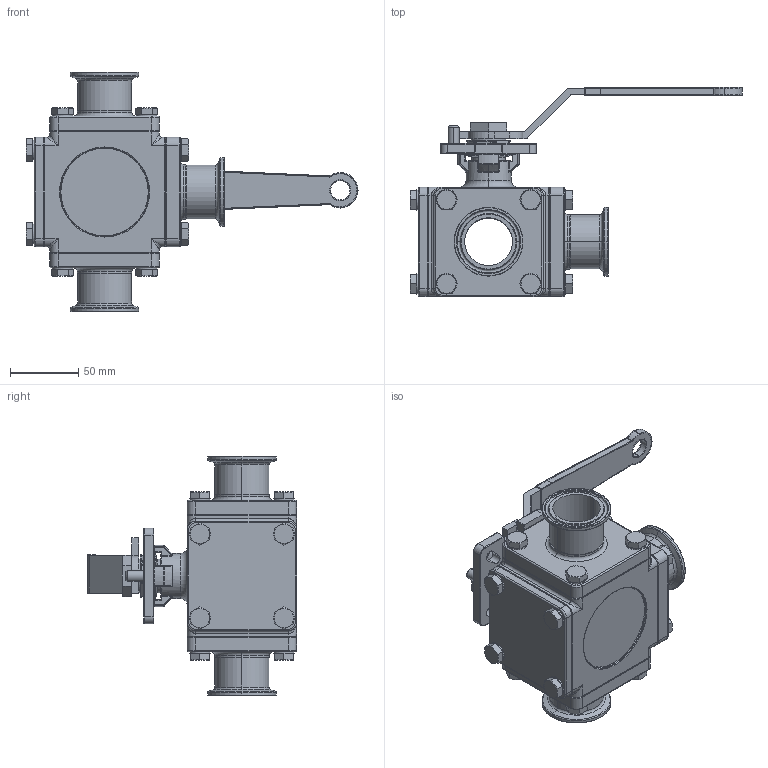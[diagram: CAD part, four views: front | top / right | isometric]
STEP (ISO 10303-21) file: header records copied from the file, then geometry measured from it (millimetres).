
FILE_DESCRIPTION (( 'STEP AP203' ), '1' );
FILE_NAME ('EG93CCC-61.5-T.STEP', '2019-07-02T02:26:35', ( '' ), ( '' ), 'SwSTEP 2.0', 'SolidWorks 2014', '' );
FILE_SCHEMA (( 'CONFIG_CONTROL_DESIGN' ));
Length unit declared in the file: millimetre
Products named in the file (24): 10.BEVEL WASHER1.5-2.0; 9.RING1.5-2.0; 12.3WAY-NUT1.5-2.0; 22.SEAT-R-1.5; 3.3WAY-BALL-1.5-T; 19.3WAY-CAP1.5; 20.SEAT BACK1.5; 21.PLAIN WASHER1.5-2.0; 11.STOP PIN1.5-2.0; EG93CCC-61.5-T; 14.HANDLE1.5-2.0; 13.STEM1.5-2.0; 5.GASKET1.5; 17.LOCKING TAB1.5-2.0; 15.SPRING WASHER1.5; 2.3WAY-CAP-C-1.5; 18.THINNER NUT1.5-2.0; 8.STEM PACKING1.5-2.0; 4.SEAT1-1.5; 16.BOLT1.5; 7.O-RING1.5-2.0; 22.SEAT-L-1.5; 1.3WAY-BODY1.5; 6.THRUST WASHER1.5-2.0
Assembly tree (58 placements, depth 2):
  EG93CCC-61.5-T
    1.3WAY-BODY1.5
    13.STEM1.5-2.0
    6.THRUST WASHER1.5-2.0
    7.O-RING1.5-2.0
    8.STEM PACKING1.5-2.0
    9.RING1.5-2.0
    10.BEVEL WASHER1.5-2.0  x2
    18.THINNER NUT1.5-2.0
    17.LOCKING TAB1.5-2.0
    22.SEAT-L-1.5
    22.SEAT-R-1.5
    20.SEAT BACK1.5
    4.SEAT1-1.5  x2
    5.GASKET1.5  x2
    19.3WAY-CAP1.5
    2.3WAY-CAP-C-1.5  x3
    15.SPRING WASHER1.5  x16
    16.BOLT1.5  x16
    21.PLAIN WASHER1.5-2.0
    14.HANDLE1.5-2.0
    12.3WAY-NUT1.5-2.0
    11.STOP PIN1.5-2.0
    3.3WAY-BALL-1.5-T
Bounding box: 243 x 153.1 x 175 mm (x, y, z)
Volume: 862397.6 mm3; surface area: 298222.3 mm2
Topology: 59 solids, 59 shells, 1543 faces, 3463 edges, 2032 vertices
Faces by surface type: cylinder 564, plane 399, cone 252, torus 231, sphere 58, bspline 39
Entity records: 33839 total; most frequent: CARTESIAN_POINT 7327, DIRECTION 5372, ORIENTED_EDGE 4516, AXIS2_PLACEMENT_3D 2285, EDGE_CURVE 2258, VERTEX_POINT 1334, CIRCLE 1269, EDGE_LOOP 1102
